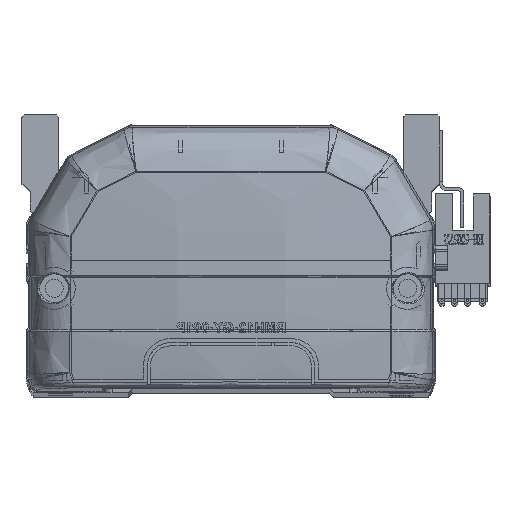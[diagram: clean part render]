
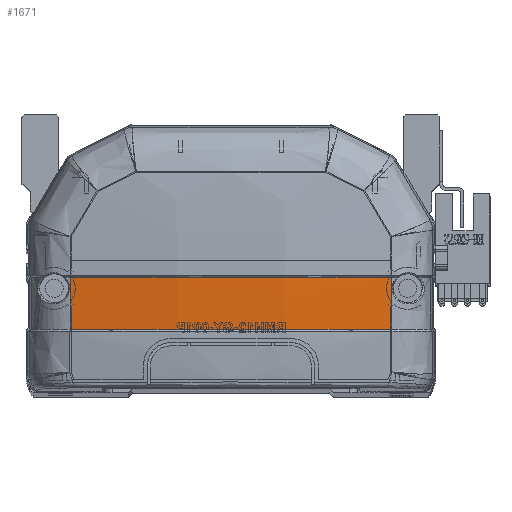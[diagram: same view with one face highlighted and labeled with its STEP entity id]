
A CAD part, top view. The second image highlights one B-rep face of the part: STEP entity #1671.
In plain terms, the highlighted free-form (B-spline) face has degree [3, 3] with [4, 4] control points.
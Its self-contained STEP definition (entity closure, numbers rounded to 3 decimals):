
#485 = CARTESIAN_POINT ( 'NONE',  ( -13.598, 19.918, -10.302 ) ) ;
#686 =( BOUNDED_SURFACE ( )  B_SPLINE_SURFACE ( 3, 3, ( 
 ( #49071, #7756, #40149, #22707 ),
 ( #1032, #1450, #32549, #41263 ),
 ( #13692, #485, #59856, #46146 ),
 ( #41852, #42072, #23393, #55837 ) ),
 .UNSPECIFIED., .F., .F., .F. ) 
 B_SPLINE_SURFACE_WITH_KNOTS ( ( 4, 4 ),
 ( 4, 4 ),
 ( 0., 1. ),
 ( 0., 1. ),
 .UNSPECIFIED. ) 
 GEOMETRIC_REPRESENTATION_ITEM ( )  RATIONAL_B_SPLINE_SURFACE ( (
 ( 1., 1., 1., 1.),
 ( 0.992, 0.992, 0.992, 0.992),
 ( 0.992, 0.992, 0.992, 0.992),
 ( 1., 1., 1., 1.) ) ) 
 REPRESENTATION_ITEM ( '' )  SURFACE ( )  );
#1032 = CARTESIAN_POINT ( 'NONE',  ( 13.598, 15.499, -10.032 ) ) ;
#1450 = CARTESIAN_POINT ( 'NONE',  ( 13.598, 19.918, -10.302 ) ) ;
#1671 = ADVANCED_FACE ( 'NONE', ( #54453 ), #686, .F. ) ;
#2624 = CARTESIAN_POINT ( 'NONE',  ( -39.985, 15.83, -5.879 ) ) ;
#7109 = CARTESIAN_POINT ( 'NONE',  ( -23.389, 15.83, -7.947 ) ) ;
#7621 = CARTESIAN_POINT ( 'NONE',  ( -39.985, 15.83, -5.879 ) ) ;
#7756 = CARTESIAN_POINT ( 'NONE',  ( 40.461, 20.111, -6.066 ) ) ;
#8296 = ORIENTED_EDGE ( 'NONE', *, *, #26366, .F. ) ;
#8858 = CARTESIAN_POINT ( 'NONE',  ( -39.985, 15.83, -5.879 ) ) ;
#11097 = VERTEX_POINT ( 'NONE', #24428 ) ;
#11156 = CARTESIAN_POINT ( 'NONE',  ( -13.373, 28.707, -9.468 ) ) ;
#13692 = CARTESIAN_POINT ( 'NONE',  ( -13.598, 15.499, -10.032 ) ) ;
#13906 = CARTESIAN_POINT ( 'NONE',  ( -39.963, 28.706, -6.372 ) ) ;
#15703 = CARTESIAN_POINT ( 'NONE',  ( 39.966, 24.413, -6.306 ) ) ;
#15792 = CARTESIAN_POINT ( 'NONE',  ( 26.749, 28.706, -8.432 ) ) ;
#16413 = CARTESIAN_POINT ( 'NONE',  ( -26.721, 15.83, -7.624 ) ) ;
#21093 = CARTESIAN_POINT ( 'NONE',  ( 26.761, 15.83, -7.945 ) ) ;
#22250 = B_SPLINE_CURVE_WITH_KNOTS ( 'NONE', 3,
 ( #52925, #21093, #25558, #25743, #44427, #7109, #16413, #48077, #39360, #2624 ),
 .UNSPECIFIED., .F., .F.,
 ( 4, 2, 2, 2, 4 ),
 ( 0., 0.04, 0.06, 0.07, 0.08 ),
 .UNSPECIFIED. ) ;
#22707 = CARTESIAN_POINT ( 'NONE',  ( 40.461, 28.832, -6.296 ) ) ;
#23393 = CARTESIAN_POINT ( 'NONE',  ( -40.461, 24.47, -6.231 ) ) ;
#24428 = CARTESIAN_POINT ( 'NONE',  ( 39.963, 28.706, -6.372 ) ) ;
#25134 = CARTESIAN_POINT ( 'NONE',  ( 13.375, 28.707, -9.468 ) ) ;
#25558 = CARTESIAN_POINT ( 'NONE',  ( 13.38, 15.83, -8.984 ) ) ;
#25743 = CARTESIAN_POINT ( 'NONE',  ( -6.692, 15.83, -8.984 ) ) ;
#26289 = EDGE_CURVE ( 'NONE', #37108, #37355, #22250, .T. ) ;
#26366 = EDGE_CURVE ( 'NONE', #56340, #11097, #33507, .T. ) ;
#26915 = B_SPLINE_CURVE_WITH_KNOTS ( 'NONE', 3,
 ( #46590, #36636, #50809, #8858 ),
 .UNSPECIFIED., .F., .F.,
 ( 4, 4 ),
 ( 0., 1. ),
 .UNSPECIFIED. ) ;
#32549 = CARTESIAN_POINT ( 'NONE',  ( 13.598, 24.342, -10.47 ) ) ;
#33507 = B_SPLINE_CURVE_WITH_KNOTS ( 'NONE', 3,
 ( #48870, #43797, #11156, #25134, #15792, #39956 ),
 .UNSPECIFIED., .F., .F.,
 ( 4, 2, 4 ),
 ( 0., 0.5, 1. ),
 .UNSPECIFIED. ) ;
#34597 = CARTESIAN_POINT ( 'NONE',  ( 39.963, 28.706, -6.372 ) ) ;
#36636 = CARTESIAN_POINT ( 'NONE',  ( -39.966, 24.412, -6.306 ) ) ;
#37108 = VERTEX_POINT ( 'NONE', #37264 ) ;
#37264 = CARTESIAN_POINT ( 'NONE',  ( 39.985, 15.83, -5.879 ) ) ;
#37355 = VERTEX_POINT ( 'NONE', #7621 ) ;
#39360 = CARTESIAN_POINT ( 'NONE',  ( -36.679, 15.83, -6.395 ) ) ;
#39956 = CARTESIAN_POINT ( 'NONE',  ( 39.963, 28.706, -6.372 ) ) ;
#40149 = CARTESIAN_POINT ( 'NONE',  ( 40.461, 24.47, -6.231 ) ) ;
#41263 = CARTESIAN_POINT ( 'NONE',  ( 13.598, 28.769, -10.535 ) ) ;
#41852 = CARTESIAN_POINT ( 'NONE',  ( -40.461, 15.757, -5.8 ) ) ;
#42072 = CARTESIAN_POINT ( 'NONE',  ( -40.461, 20.111, -6.066 ) ) ;
#42183 = EDGE_CURVE ( 'NONE', #56340, #37355, #26915, .T. ) ;
#43703 = CARTESIAN_POINT ( 'NONE',  ( 39.973, 20.12, -6.142 ) ) ;
#43797 = CARTESIAN_POINT ( 'NONE',  ( -26.748, 28.706, -8.432 ) ) ;
#44427 = CARTESIAN_POINT ( 'NONE',  ( -13.384, 15.83, -8.724 ) ) ;
#44900 = ORIENTED_EDGE ( 'NONE', *, *, #26289, .F. ) ;
#46146 = CARTESIAN_POINT ( 'NONE',  ( -13.598, 28.769, -10.535 ) ) ;
#46347 = EDGE_CURVE ( 'NONE', #37108, #11097, #49567, .T. ) ;
#46590 = CARTESIAN_POINT ( 'NONE',  ( -39.963, 28.706, -6.372 ) ) ;
#48077 = CARTESIAN_POINT ( 'NONE',  ( -33.365, 15.83, -6.848 ) ) ;
#48504 = EDGE_LOOP ( 'NONE', ( #48792, #8296, #58016, #44900 ) ) ;
#48792 = ORIENTED_EDGE ( 'NONE', *, *, #46347, .T. ) ;
#48870 = CARTESIAN_POINT ( 'NONE',  ( -39.963, 28.706, -6.372 ) ) ;
#49071 = CARTESIAN_POINT ( 'NONE',  ( 40.461, 15.757, -5.8 ) ) ;
#49567 = B_SPLINE_CURVE_WITH_KNOTS ( 'NONE', 3,
 ( #57067, #43703, #15703, #34597 ),
 .UNSPECIFIED., .F., .F.,
 ( 4, 4 ),
 ( 0., 1. ),
 .UNSPECIFIED. ) ;
#50809 = CARTESIAN_POINT ( 'NONE',  ( -39.973, 20.118, -6.142 ) ) ;
#52925 = CARTESIAN_POINT ( 'NONE',  ( 39.985, 15.83, -5.879 ) ) ;
#54453 = FACE_OUTER_BOUND ( 'NONE', #48504, .T. ) ;
#55837 = CARTESIAN_POINT ( 'NONE',  ( -40.461, 28.832, -6.296 ) ) ;
#56340 = VERTEX_POINT ( 'NONE', #13906 ) ;
#57067 = CARTESIAN_POINT ( 'NONE',  ( 39.985, 15.83, -5.879 ) ) ;
#58016 = ORIENTED_EDGE ( 'NONE', *, *, #42183, .T. ) ;
#59856 = CARTESIAN_POINT ( 'NONE',  ( -13.598, 24.342, -10.47 ) ) ;
